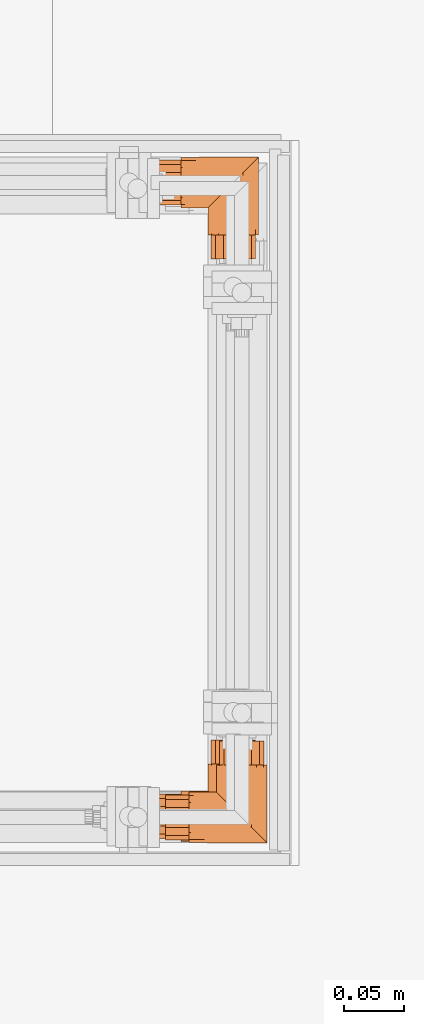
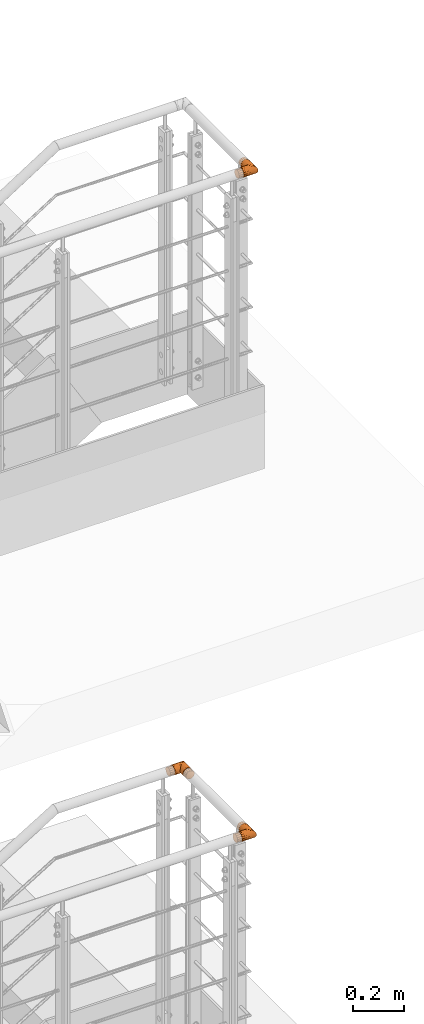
# One storey, part 96 of 98: 3 proxies.
"""IFC2X3 building model written with IfcOpenShell, lengths in millimetres."""

from ifc_helpers import new_model, entity, si_unit, converted_unit, origin_with_axes, place, context, project, spatial, faceted_brep, material, element, save


model = new_model("IFC2X3")

# Units and contexts
model_context = context("Model", 3, precision=1e-09, world=origin_with_axes())
ifc_project = project(units=[si_unit("LENGTHUNIT", "METRE", prefix="MILLI"), si_unit("AREAUNIT", "SQUARE_METRE"), si_unit("VOLUMEUNIT", "CUBIC_METRE"), converted_unit("PLANEANGLEUNIT", "DEGREE", entity("IfcPlaneAngleMeasure", 0.01745329), si_unit("PLANEANGLEUNIT", "RADIAN"), dimensions=[0, 0, 0, 0, 0, 0, 0])], contexts=[model_context])

# Site, building, storey
site_placement = place(None, origin_with_axes())
site = spatial("IfcSite", under=ifc_project, at=site_placement, Name="Maybachstra?e 2, 71563 Affalterbach", CompositionType="ELEMENT")
building_placement = place(site_placement, origin_with_axes())
building = spatial("IfcBuilding", under=site, at=building_placement, Name="Struktur 1", CompositionType="ELEMENT")
storey_placement = place(building_placement, origin_with_axes())
storey = spatial("IfcBuildingStorey", under=building, at=storey_placement, Name="Default Storey", CompositionType="ELEMENT", Elevation=0.0)

# Proxies
ifc_material = material(Name="1.4301")
proxy_1_placement = place(None, origin_with_axes())
element("IfcBuildingElementProxy", 1, at=proxy_1_placement, inside=storey, material=ifc_material, ObjectType="-", context=model_context, shape_type="Brep", body=[
    faceted_brep([(12180.232157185, -58.669869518, 3973.061275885), (12160.232157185, -58.669869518, 3973.061275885), (12160.232157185, -58.669869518, 3964.538724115), (12180.232157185, -58.669869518, 3964.538724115), (12160.232157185, -25.027927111, 3956.860170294), (12160.232157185, -31.691126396, 3951.54644618), (12160.232157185, -40.0, 3949.65), (12160.232157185, -48.308873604, 3951.54644618), (12160.232157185, -54.972072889, 3956.860170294), (12160.232157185, -54.972072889, 3980.739829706), (12160.232157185, -48.308873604, 3986.05355382), (12160.232157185, -40.0, 3987.95), (12160.232157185, -31.691126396, 3986.05355382), (12160.232157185, -25.027927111, 3980.739829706), (12160.232157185, -21.330130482, 3973.061275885), (12160.232157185, -21.330130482, 3964.538724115), (12180.232157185, -54.972072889, 3980.739829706), (12180.232157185, -25.027927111, 3980.739829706), (12180.232157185, -31.691126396, 3986.05355382), (12180.232157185, -40.0, 3987.95), (12180.232157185, -48.308873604, 3986.05355382), (12180.232157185, -54.972072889, 3956.860170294), (12180.232157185, -48.308873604, 3951.54644618), (12180.232157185, -40.0, 3949.65), (12180.232157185, -31.691126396, 3951.54644618), (12180.232157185, -25.027927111, 3956.860170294), (12180.232157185, -21.330130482, 3964.538724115), (12180.232157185, -21.330130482, 3973.061275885)], [[[0, 1, 2, 3]], [[4, 5, 6, 7, 8, 2, 1, 9, 10, 11, 12, 13, 14, 15]], [[1, 0, 16, 9]], [[17, 18, 19, 20, 16, 0, 3, 21, 22, 23, 24, 25, 26, 27]], [[3, 2, 8, 21]], [[9, 16, 20, 10]], [[21, 8, 7, 22]], [[10, 20, 19, 11]], [[22, 7, 6, 23]], [[11, 19, 18, 12]], [[23, 6, 5, 24]], [[17, 13, 12, 18]], [[13, 17, 27, 14]], [[24, 5, 4, 25]], [[14, 27, 26, 15]], [[25, 4, 15, 26]]]),
    faceted_brep([(12244.824805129, -19.207352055, 3972.935914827), (12243.618403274, -20.413753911, 3976.912888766), (12241.659312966, -22.372844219, 3980.57808894), (12239.022820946, -25.009336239, 3983.790663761), (12232.145045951, -31.887111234, 3988.386246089), (12224.032157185, -40.0, 3990.0), (12215.919268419, -48.112888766, 3988.386246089), (12209.041493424, -54.990663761, 3983.790663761), (12206.405001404, -57.627155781, 3980.57808894), (12204.445911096, -59.586246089, 3976.912888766), (12203.23950924, -60.792647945, 3972.935914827), (12202.832157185, -61.2, 3968.8), (12203.23950924, -60.792647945, 3964.664085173), (12204.445911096, -59.586246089, 3960.687111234), (12206.405001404, -57.627155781, 3957.02191106), (12209.041493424, -54.990663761, 3953.809336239), (12215.919268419, -48.112888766, 3949.213753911), (12224.032157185, -40.0, 3947.6), (12232.145045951, -31.887111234, 3949.213753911), (12239.022820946, -25.009336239, 3953.809336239), (12241.659312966, -22.372844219, 3957.02191106), (12243.618403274, -20.413753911, 3960.687111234), (12244.824805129, -19.207352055, 3964.664085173), (12245.232157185, -18.8, 3968.8), (12180.232157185, -44.407727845, 3989.536729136), (12180.232157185, -40.0, 3947.6), (12180.232157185, -52.461047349, 3985.951160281), (12180.232157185, -35.592272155, 3989.536729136), (12180.232157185, -48.622816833, 3949.432836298), (12180.232157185, -55.7546703, 3954.614431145), (12180.232157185, -60.162398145, 3962.248839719), (12180.232157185, -61.083864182, 3971.016003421), (12180.232157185, -58.35973856, 3979.4), (12180.232157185, -27.538952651, 3985.951160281), (12180.232157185, -21.64026144, 3979.4), (12180.232157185, -18.916135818, 3971.016003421), (12180.232157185, -19.837601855, 3962.248839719), (12180.232157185, -24.2453297, 3954.614431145), (12180.232157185, -31.377183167, 3949.432836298)], [[[0, 1, 2, 3, 4, 5, 6, 7, 8, 9, 10, 11, 12, 13, 14, 15, 16, 17, 18, 19, 20, 21, 22, 23]], [[6, 5, 24]], [[17, 16, 25]], [[26, 6, 24]], [[24, 5, 27]], [[18, 17, 25]], [[25, 16, 28]], [[7, 6, 26]], [[28, 29, 30, 31, 32, 26, 24, 27, 33, 34, 35, 36, 37, 38, 25]], [[5, 4, 27]], [[38, 18, 25]], [[16, 15, 28]], [[8, 7, 32]], [[32, 7, 26]], [[27, 4, 33]], [[19, 18, 38]], [[11, 10, 31]], [[28, 15, 29]], [[9, 8, 32]], [[10, 9, 31]], [[4, 3, 33]], [[37, 19, 38]], [[31, 12, 11]], [[13, 12, 30]], [[14, 13, 30]], [[15, 14, 29]], [[31, 9, 32]], [[33, 3, 34]], [[20, 19, 37]], [[30, 12, 31]], [[29, 14, 30]], [[3, 2, 34]], [[36, 20, 37]], [[2, 1, 34]], [[21, 20, 36]], [[34, 1, 35]], [[22, 21, 36]], [[35, 22, 36]], [[1, 0, 35]], [[0, 23, 35]], [[35, 23, 22]]]),
    faceted_brep([(12242.702026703, -103.8, 3964.538724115), (12242.702026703, -83.8, 3964.538724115), (12242.702026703, -83.8, 3973.061275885), (12242.702026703, -103.8, 3973.061275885), (12239.004230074, -83.8, 3980.739829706), (12239.004230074, -103.8, 3980.739829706), (12209.060084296, -83.8, 3980.739829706), (12215.723283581, -83.8, 3986.05355382), (12224.032157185, -83.8, 3987.95), (12232.341030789, -83.8, 3986.05355382), (12239.004230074, -83.8, 3956.860170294), (12232.341030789, -83.8, 3951.54644618), (12224.032157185, -83.8, 3949.65), (12215.723283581, -83.8, 3951.54644618), (12209.060084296, -83.8, 3956.860170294), (12205.362287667, -83.8, 3964.538724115), (12205.362287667, -83.8, 3973.061275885), (12239.004230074, -103.8, 3956.860170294), (12209.060084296, -103.8, 3956.860170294), (12215.723283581, -103.8, 3951.54644618), (12224.032157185, -103.8, 3949.65), (12232.341030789, -103.8, 3951.54644618), (12232.341030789, -103.8, 3986.05355382), (12224.032157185, -103.8, 3987.95), (12215.723283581, -103.8, 3986.05355382), (12209.060084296, -103.8, 3980.739829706), (12205.362287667, -103.8, 3973.061275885), (12205.362287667, -103.8, 3964.538724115)], [[[0, 1, 2, 3]], [[3, 2, 4, 5]], [[6, 7, 8, 9, 4, 2, 1, 10, 11, 12, 13, 14, 15, 16]], [[1, 0, 17, 10]], [[18, 19, 20, 21, 17, 0, 3, 5, 22, 23, 24, 25, 26, 27]], [[5, 4, 9, 22]], [[10, 17, 21, 11]], [[20, 12, 11, 21]], [[22, 9, 8, 23]], [[12, 20, 19, 13]], [[13, 19, 18, 14]], [[23, 8, 7, 24]], [[6, 25, 24, 7]], [[16, 26, 25, 6]], [[15, 27, 26, 16]], [[14, 18, 27, 15]]]),
    faceted_brep([(12224.032157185, -83.8, 3947.6), (12224.032157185, -40.0, 3947.6), (12232.654974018, -83.8, 3949.432836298), (12239.022820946, -25.009336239, 3953.809336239), (12239.786827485, -83.8, 3954.614431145), (12211.571109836, -83.8, 3985.951160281), (12205.672418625, -83.8, 3979.4), (12202.948293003, -83.8, 3971.016003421), (12203.869759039, -83.8, 3962.248839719), (12208.277486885, -83.8, 3954.614431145), (12215.409340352, -83.8, 3949.432836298), (12244.19455533, -83.8, 3962.248839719), (12245.116021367, -83.8, 3971.016003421), (12242.391895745, -83.8, 3979.4), (12236.493204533, -83.8, 3985.951160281), (12228.43988503, -83.8, 3989.536729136), (12219.62442934, -83.8, 3989.536729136), (12215.919268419, -48.112888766, 3949.213753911), (12203.23950924, -60.792647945, 3972.935914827), (12204.445911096, -59.586246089, 3976.912888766), (12206.405001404, -57.627155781, 3980.57808894), (12209.041493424, -54.990663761, 3983.790663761), (12215.919268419, -48.112888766, 3988.386246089), (12224.032157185, -40.0, 3990.0), (12232.145045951, -31.887111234, 3988.386246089), (12239.022820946, -25.009336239, 3983.790663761), (12241.659312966, -22.372844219, 3980.57808894), (12243.618403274, -20.413753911, 3976.912888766), (12244.824805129, -19.207352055, 3972.935914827), (12245.232157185, -18.8, 3968.8), (12244.824805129, -19.207352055, 3964.664085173), (12243.618403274, -20.413753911, 3960.687111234), (12241.659312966, -22.372844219, 3957.02191106), (12232.145045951, -31.887111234, 3949.213753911), (12209.041493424, -54.990663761, 3953.809336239), (12206.405001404, -57.627155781, 3957.02191106), (12204.445911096, -59.586246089, 3960.687111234), (12203.23950924, -60.792647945, 3964.664085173), (12202.832157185, -61.2, 3968.8)], [[[0, 1, 2]], [[2, 3, 4]], [[5, 6, 7, 8, 9, 10, 0, 2, 4, 11, 12, 13, 14, 15, 16]], [[17, 1, 0]], [[18, 19, 20, 21, 22, 23, 24, 25, 26, 27, 28, 29, 30, 31, 32, 3, 33, 1, 17, 34, 35, 36, 37, 38]], [[1, 33, 2]], [[33, 3, 2]], [[32, 31, 11]], [[3, 32, 4]], [[10, 17, 0]], [[24, 23, 15]], [[15, 23, 16]], [[23, 22, 16]], [[30, 29, 12]], [[31, 30, 11]], [[4, 32, 11]], [[34, 17, 10]], [[14, 24, 15]], [[12, 29, 28]], [[16, 22, 5]], [[11, 30, 12]], [[9, 34, 10]], [[25, 24, 14]], [[26, 25, 13]], [[27, 26, 13]], [[28, 27, 12]], [[22, 21, 5]], [[35, 34, 9]], [[13, 25, 14]], [[12, 27, 13]], [[5, 21, 6]], [[8, 35, 9]], [[21, 20, 6]], [[7, 37, 8]], [[36, 35, 8]], [[20, 19, 6]], [[38, 37, 7]], [[37, 36, 8]], [[18, 38, 7]], [[6, 19, 7]], [[7, 19, 18]]]),
])
proxy_2_placement = place(None, origin_with_axes())
element("IfcBuildingElementProxy", 2, at=proxy_2_placement, inside=storey, material=ifc_material, ObjectType="-", context=model_context, shape_type="Brep", body=[
    faceted_brep([(12167.232157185, -551.330130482, 7165.561275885), (12187.232157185, -551.330130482, 7165.561275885), (12187.232157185, -551.330130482, 7157.038724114), (12167.232157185, -551.330130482, 7157.038724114), (12167.232157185, -578.308873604, 7144.046446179), (12167.232157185, -584.972072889, 7149.360170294), (12167.232157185, -588.669869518, 7157.038724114), (12167.232157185, -588.669869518, 7165.561275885), (12167.232157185, -584.972072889, 7173.239829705), (12167.232157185, -578.308873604, 7178.55355382), (12167.232157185, -570.0, 7180.45), (12167.232157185, -561.691126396, 7178.55355382), (12167.232157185, -555.027927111, 7173.239829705), (12167.232157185, -555.027927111, 7149.360170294), (12167.232157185, -561.691126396, 7144.046446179), (12167.232157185, -570.0, 7142.15), (12187.232157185, -555.027927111, 7173.239829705), (12187.232157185, -578.308873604, 7178.55355382), (12187.232157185, -584.972072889, 7173.239829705), (12187.232157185, -588.669869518, 7165.561275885), (12187.232157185, -588.669869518, 7157.038724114), (12187.232157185, -584.972072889, 7149.360170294), (12187.232157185, -578.308873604, 7144.046446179), (12187.232157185, -570.0, 7142.15), (12187.232157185, -561.691126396, 7144.046446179), (12187.232157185, -555.027927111, 7149.360170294), (12187.232157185, -561.691126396, 7178.55355382), (12187.232157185, -570.0, 7180.45)], [[[0, 1, 2, 3]], [[4, 5, 6, 7, 8, 9, 10, 11, 12, 0, 3, 13, 14, 15]], [[1, 0, 12, 16]], [[17, 18, 19, 20, 21, 22, 23, 24, 25, 2, 1, 16, 26, 27]], [[3, 2, 25, 13]], [[16, 12, 11, 26]], [[13, 25, 24, 14]], [[26, 11, 10, 27]], [[14, 24, 23, 15]], [[27, 10, 9, 17]], [[15, 23, 22, 4]], [[8, 18, 17, 9]], [[18, 8, 7, 19]], [[4, 22, 21, 5]], [[19, 7, 6, 20]], [[5, 21, 20, 6]]]),
    faceted_brep([(12250.618403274, -589.586246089, 7169.412888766), (12251.824805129, -590.792647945, 7165.435914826), (12252.232157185, -591.2, 7161.3), (12251.824805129, -590.792647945, 7157.164085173), (12250.618403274, -589.586246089, 7153.187111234), (12248.659312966, -587.627155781, 7149.52191106), (12246.022820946, -584.990663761, 7146.309336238), (12239.145045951, -578.112888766, 7141.71375391), (12231.032157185, -570.0, 7140.1), (12222.919268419, -561.887111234, 7141.71375391), (12216.041493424, -555.009336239, 7146.309336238), (12213.405001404, -552.372844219, 7149.52191106), (12211.445911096, -550.413753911, 7153.187111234), (12210.23950924, -549.207352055, 7157.164085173), (12209.832157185, -548.8, 7161.3), (12210.23950924, -549.207352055, 7165.435914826), (12211.445911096, -550.413753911, 7169.412888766), (12213.405001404, -552.372844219, 7173.07808894), (12216.041493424, -555.009336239, 7176.290663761), (12222.919268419, -561.887111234, 7180.886246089), (12231.032157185, -570.0, 7182.5), (12239.145045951, -578.112888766, 7180.886246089), (12246.022820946, -584.990663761, 7176.290663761), (12248.659312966, -587.627155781, 7173.07808894), (12187.232157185, -565.592272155, 7182.036729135), (12187.232157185, -570.0, 7140.1), (12187.232157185, -557.538952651, 7178.45116028), (12187.232157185, -574.407727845, 7182.036729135), (12187.232157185, -561.377183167, 7141.932836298), (12187.232157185, -554.2453297, 7147.114431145), (12187.232157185, -578.622816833, 7141.932836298), (12187.232157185, -585.7546703, 7147.114431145), (12187.232157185, -590.162398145, 7154.748839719), (12187.232157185, -591.083864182, 7163.516003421), (12187.232157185, -588.35973856, 7171.9), (12187.232157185, -582.461047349, 7178.45116028), (12187.232157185, -551.64026144, 7171.9), (12187.232157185, -548.916135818, 7163.516003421), (12187.232157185, -549.837601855, 7154.748839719)], [[[0, 1, 2, 3, 4, 5, 6, 7, 8, 9, 10, 11, 12, 13, 14, 15, 16, 17, 18, 19, 20, 21, 22, 23]], [[20, 19, 24]], [[9, 8, 25]], [[19, 26, 24]], [[20, 24, 27]], [[8, 7, 25]], [[9, 25, 28]], [[19, 18, 26]], [[29, 28, 25, 30, 31, 32, 33, 34, 35, 27, 24, 26, 36, 37, 38]], [[21, 20, 27]], [[7, 30, 25]], [[10, 9, 28]], [[18, 17, 36]], [[18, 36, 26]], [[21, 27, 35]], [[7, 6, 30]], [[15, 14, 37]], [[10, 28, 29]], [[17, 16, 36]], [[16, 15, 37]], [[22, 21, 35]], [[6, 31, 30]], [[13, 37, 14]], [[13, 12, 38]], [[12, 11, 38]], [[11, 10, 29]], [[16, 37, 36]], [[22, 35, 34]], [[6, 5, 31]], [[13, 38, 37]], [[11, 29, 38]], [[23, 22, 34]], [[5, 32, 31]], [[0, 23, 34]], [[5, 4, 32]], [[0, 34, 33]], [[4, 3, 32]], [[3, 33, 32]], [[1, 0, 33]], [[2, 1, 33]], [[2, 33, 3]]]),
    faceted_brep([(12249.702026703, -526.2, 7157.038724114), (12249.702026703, -506.2, 7157.038724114), (12249.702026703, -506.2, 7165.561275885), (12249.702026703, -526.2, 7165.561275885), (12246.004230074, -506.2, 7173.239829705), (12246.004230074, -526.2, 7173.239829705), (12222.723283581, -526.2, 7178.55355382), (12216.060084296, -526.2, 7173.239829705), (12212.362287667, -526.2, 7165.561275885), (12212.362287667, -526.2, 7157.038724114), (12216.060084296, -526.2, 7149.360170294), (12222.723283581, -526.2, 7144.046446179), (12231.032157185, -526.2, 7142.15), (12239.341030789, -526.2, 7144.046446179), (12246.004230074, -526.2, 7149.360170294), (12239.341030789, -526.2, 7178.55355382), (12231.032157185, -526.2, 7180.45), (12246.004230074, -506.2, 7149.360170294), (12222.723283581, -506.2, 7144.046446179), (12216.060084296, -506.2, 7149.360170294), (12212.362287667, -506.2, 7157.038724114), (12212.362287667, -506.2, 7165.561275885), (12216.060084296, -506.2, 7173.239829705), (12222.723283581, -506.2, 7178.55355382), (12231.032157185, -506.2, 7180.45), (12239.341030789, -506.2, 7178.55355382), (12239.341030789, -506.2, 7144.046446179), (12231.032157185, -506.2, 7142.15)], [[[0, 1, 2, 3]], [[3, 2, 4, 5]], [[6, 7, 8, 9, 10, 11, 12, 13, 14, 0, 3, 5, 15, 16]], [[1, 0, 14, 17]], [[18, 19, 20, 21, 22, 23, 24, 25, 4, 2, 1, 17, 26, 27]], [[5, 4, 25, 15]], [[17, 14, 13, 26]], [[12, 27, 26, 13]], [[15, 25, 24, 16]], [[27, 12, 11, 18]], [[18, 11, 10, 19]], [[16, 24, 23, 6]], [[22, 7, 6, 23]], [[21, 8, 7, 22]], [[20, 9, 8, 21]], [[19, 10, 9, 20]]]),
    faceted_brep([(12231.032157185, -570.0, 7140.1), (12231.032157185, -526.2, 7140.1), (12239.654974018, -526.2, 7141.932836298), (12246.022820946, -584.990663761, 7146.309336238), (12246.786827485, -526.2, 7147.114431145), (12212.672418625, -526.2, 7171.9), (12218.571109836, -526.2, 7178.45116028), (12226.62442934, -526.2, 7182.036729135), (12235.43988503, -526.2, 7182.036729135), (12243.493204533, -526.2, 7178.45116028), (12249.391895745, -526.2, 7171.9), (12252.116021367, -526.2, 7163.516003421), (12251.19455533, -526.2, 7154.748839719), (12222.409340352, -526.2, 7141.932836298), (12215.277486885, -526.2, 7147.114431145), (12210.869759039, -526.2, 7154.748839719), (12209.948293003, -526.2, 7163.516003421), (12222.919268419, -561.887111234, 7141.71375391), (12211.445911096, -550.413753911, 7169.412888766), (12210.23950924, -549.207352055, 7165.435914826), (12209.832157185, -548.8, 7161.3), (12210.23950924, -549.207352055, 7157.164085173), (12211.445911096, -550.413753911, 7153.187111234), (12213.405001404, -552.372844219, 7149.52191106), (12216.041493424, -555.009336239, 7146.309336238), (12239.145045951, -578.112888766, 7141.71375391), (12248.659312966, -587.627155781, 7149.52191106), (12250.618403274, -589.586246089, 7153.187111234), (12251.824805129, -590.792647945, 7157.164085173), (12252.232157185, -591.2, 7161.3), (12251.824805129, -590.792647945, 7165.435914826), (12250.618403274, -589.586246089, 7169.412888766), (12248.659312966, -587.627155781, 7173.07808894), (12246.022820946, -584.990663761, 7176.290663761), (12239.145045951, -578.112888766, 7180.886246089), (12231.032157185, -570.0, 7182.5), (12222.919268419, -561.887111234, 7180.886246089), (12216.041493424, -555.009336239, 7176.290663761), (12213.405001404, -552.372844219, 7173.07808894)], [[[0, 1, 2]], [[3, 2, 4]], [[5, 6, 7, 8, 9, 10, 11, 12, 4, 2, 1, 13, 14, 15, 16]], [[0, 17, 1]], [[18, 19, 20, 21, 22, 23, 24, 17, 0, 25, 3, 26, 27, 28, 29, 30, 31, 32, 33, 34, 35, 36, 37, 38]], [[25, 0, 2]], [[3, 25, 2]], [[27, 26, 12]], [[26, 3, 4]], [[17, 13, 1]], [[35, 34, 8]], [[35, 8, 7]], [[36, 35, 7]], [[29, 28, 11]], [[28, 27, 12]], [[26, 4, 12]], [[17, 24, 13]], [[34, 9, 8]], [[29, 11, 30]], [[36, 7, 6]], [[28, 12, 11]], [[24, 14, 13]], [[34, 33, 9]], [[33, 32, 10]], [[32, 31, 10]], [[31, 30, 11]], [[37, 36, 6]], [[24, 23, 14]], [[33, 10, 9]], [[31, 11, 10]], [[37, 6, 5]], [[23, 15, 14]], [[38, 37, 5]], [[21, 16, 15]], [[23, 22, 15]], [[18, 38, 5]], [[21, 20, 16]], [[22, 21, 15]], [[20, 19, 16]], [[18, 5, 16]], [[18, 16, 19]]]),
])
proxy_3_placement = place(None, origin_with_axes())
element("IfcBuildingElementProxy", 3, at=proxy_3_placement, inside=storey, material=ifc_material, ObjectType="-", context=model_context, shape_type="Brep", body=[
    faceted_brep([(12160.232157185, -550.330130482, 3973.061275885), (12180.232157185, -550.330130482, 3973.061275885), (12180.232157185, -550.330130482, 3964.538724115), (12160.232157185, -550.330130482, 3964.538724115), (12160.232157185, -577.308873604, 3951.54644618), (12160.232157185, -583.972072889, 3956.860170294), (12160.232157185, -587.669869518, 3964.538724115), (12160.232157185, -587.669869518, 3973.061275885), (12160.232157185, -583.972072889, 3980.739829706), (12160.232157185, -577.308873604, 3986.05355382), (12160.232157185, -569.0, 3987.95), (12160.232157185, -560.691126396, 3986.05355382), (12160.232157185, -554.027927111, 3980.739829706), (12160.232157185, -554.027927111, 3956.860170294), (12160.232157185, -560.691126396, 3951.54644618), (12160.232157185, -569.0, 3949.65), (12180.232157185, -554.027927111, 3980.739829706), (12180.232157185, -577.308873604, 3986.05355382), (12180.232157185, -583.972072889, 3980.739829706), (12180.232157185, -587.669869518, 3973.061275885), (12180.232157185, -587.669869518, 3964.538724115), (12180.232157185, -583.972072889, 3956.860170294), (12180.232157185, -577.308873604, 3951.54644618), (12180.232157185, -569.0, 3949.65), (12180.232157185, -560.691126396, 3951.54644618), (12180.232157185, -554.027927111, 3956.860170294), (12180.232157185, -560.691126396, 3986.05355382), (12180.232157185, -569.0, 3987.95)], [[[0, 1, 2, 3]], [[4, 5, 6, 7, 8, 9, 10, 11, 12, 0, 3, 13, 14, 15]], [[1, 0, 12, 16]], [[17, 18, 19, 20, 21, 22, 23, 24, 25, 2, 1, 16, 26, 27]], [[3, 2, 25, 13]], [[16, 12, 11, 26]], [[13, 25, 24, 14]], [[26, 11, 10, 27]], [[14, 24, 23, 15]], [[27, 10, 9, 17]], [[15, 23, 22, 4]], [[8, 18, 17, 9]], [[18, 8, 7, 19]], [[4, 22, 21, 5]], [[19, 7, 6, 20]], [[5, 21, 20, 6]]]),
    faceted_brep([(12243.618403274, -588.586246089, 3976.912888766), (12244.824805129, -589.792647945, 3972.935914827), (12245.232157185, -590.2, 3968.8), (12244.824805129, -589.792647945, 3964.664085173), (12243.618403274, -588.586246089, 3960.687111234), (12241.659312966, -586.627155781, 3957.02191106), (12239.022820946, -583.990663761, 3953.809336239), (12232.145045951, -577.112888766, 3949.213753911), (12224.032157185, -569.0, 3947.6), (12215.919268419, -560.887111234, 3949.213753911), (12209.041493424, -554.009336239, 3953.809336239), (12206.405001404, -551.372844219, 3957.02191106), (12204.445911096, -549.413753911, 3960.687111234), (12203.23950924, -548.207352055, 3964.664085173), (12202.832157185, -547.8, 3968.8), (12203.23950924, -548.207352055, 3972.935914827), (12204.445911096, -549.413753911, 3976.912888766), (12206.405001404, -551.372844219, 3980.57808894), (12209.041493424, -554.009336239, 3983.790663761), (12215.919268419, -560.887111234, 3988.386246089), (12224.032157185, -569.0, 3990.0), (12232.145045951, -577.112888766, 3988.386246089), (12239.022820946, -583.990663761, 3983.790663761), (12241.659312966, -586.627155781, 3980.57808894), (12180.232157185, -564.592272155, 3989.536729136), (12180.232157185, -569.0, 3947.6), (12180.232157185, -556.538952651, 3985.951160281), (12180.232157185, -573.407727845, 3989.536729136), (12180.232157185, -560.377183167, 3949.432836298), (12180.232157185, -553.2453297, 3954.614431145), (12180.232157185, -577.622816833, 3949.432836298), (12180.232157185, -584.7546703, 3954.614431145), (12180.232157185, -589.162398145, 3962.248839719), (12180.232157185, -590.083864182, 3971.016003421), (12180.232157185, -587.35973856, 3979.4), (12180.232157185, -581.461047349, 3985.951160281), (12180.232157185, -550.64026144, 3979.4), (12180.232157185, -547.916135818, 3971.016003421), (12180.232157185, -548.837601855, 3962.248839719)], [[[0, 1, 2, 3, 4, 5, 6, 7, 8, 9, 10, 11, 12, 13, 14, 15, 16, 17, 18, 19, 20, 21, 22, 23]], [[20, 19, 24]], [[9, 8, 25]], [[19, 26, 24]], [[20, 24, 27]], [[8, 7, 25]], [[9, 25, 28]], [[19, 18, 26]], [[29, 28, 25, 30, 31, 32, 33, 34, 35, 27, 24, 26, 36, 37, 38]], [[21, 20, 27]], [[7, 30, 25]], [[10, 9, 28]], [[18, 17, 36]], [[18, 36, 26]], [[21, 27, 35]], [[7, 6, 30]], [[15, 14, 37]], [[10, 28, 29]], [[17, 16, 36]], [[16, 15, 37]], [[22, 21, 35]], [[6, 31, 30]], [[13, 37, 14]], [[13, 12, 38]], [[12, 11, 38]], [[11, 10, 29]], [[16, 37, 36]], [[22, 35, 34]], [[6, 5, 31]], [[13, 38, 37]], [[11, 29, 38]], [[23, 22, 34]], [[5, 32, 31]], [[0, 23, 34]], [[5, 4, 32]], [[0, 34, 33]], [[4, 3, 32]], [[3, 33, 32]], [[1, 0, 33]], [[2, 1, 33]], [[2, 33, 3]]]),
    faceted_brep([(12242.702026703, -525.2, 3964.538724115), (12242.702026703, -505.2, 3964.538724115), (12242.702026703, -505.2, 3973.061275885), (12242.702026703, -525.2, 3973.061275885), (12239.004230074, -505.2, 3980.739829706), (12239.004230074, -525.2, 3980.739829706), (12215.723283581, -525.2, 3986.05355382), (12209.060084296, -525.2, 3980.739829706), (12205.362287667, -525.2, 3973.061275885), (12205.362287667, -525.2, 3964.538724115), (12209.060084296, -525.2, 3956.860170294), (12215.723283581, -525.2, 3951.54644618), (12224.032157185, -525.2, 3949.65), (12232.341030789, -525.2, 3951.54644618), (12239.004230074, -525.2, 3956.860170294), (12232.341030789, -525.2, 3986.05355382), (12224.032157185, -525.2, 3987.95), (12239.004230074, -505.2, 3956.860170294), (12215.723283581, -505.2, 3951.54644618), (12209.060084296, -505.2, 3956.860170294), (12205.362287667, -505.2, 3964.538724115), (12205.362287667, -505.2, 3973.061275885), (12209.060084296, -505.2, 3980.739829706), (12215.723283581, -505.2, 3986.05355382), (12224.032157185, -505.2, 3987.95), (12232.341030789, -505.2, 3986.05355382), (12232.341030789, -505.2, 3951.54644618), (12224.032157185, -505.2, 3949.65)], [[[0, 1, 2, 3]], [[3, 2, 4, 5]], [[6, 7, 8, 9, 10, 11, 12, 13, 14, 0, 3, 5, 15, 16]], [[1, 0, 14, 17]], [[18, 19, 20, 21, 22, 23, 24, 25, 4, 2, 1, 17, 26, 27]], [[5, 4, 25, 15]], [[17, 14, 13, 26]], [[12, 27, 26, 13]], [[15, 25, 24, 16]], [[27, 12, 11, 18]], [[18, 11, 10, 19]], [[16, 24, 23, 6]], [[22, 7, 6, 23]], [[21, 8, 7, 22]], [[20, 9, 8, 21]], [[19, 10, 9, 20]]]),
    faceted_brep([(12224.032157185, -569.0, 3947.6), (12224.032157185, -525.2, 3947.6), (12232.654974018, -525.2, 3949.432836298), (12239.022820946, -583.990663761, 3953.809336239), (12239.786827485, -525.2, 3954.614431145), (12205.672418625, -525.2, 3979.4), (12211.571109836, -525.2, 3985.951160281), (12219.62442934, -525.2, 3989.536729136), (12228.43988503, -525.2, 3989.536729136), (12236.493204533, -525.2, 3985.951160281), (12242.391895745, -525.2, 3979.4), (12245.116021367, -525.2, 3971.016003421), (12244.19455533, -525.2, 3962.248839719), (12215.409340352, -525.2, 3949.432836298), (12208.277486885, -525.2, 3954.614431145), (12203.869759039, -525.2, 3962.248839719), (12202.948293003, -525.2, 3971.016003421), (12215.919268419, -560.887111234, 3949.213753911), (12204.445911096, -549.413753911, 3976.912888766), (12203.23950924, -548.207352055, 3972.935914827), (12202.832157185, -547.8, 3968.8), (12203.23950924, -548.207352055, 3964.664085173), (12204.445911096, -549.413753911, 3960.687111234), (12206.405001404, -551.372844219, 3957.02191106), (12209.041493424, -554.009336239, 3953.809336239), (12232.145045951, -577.112888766, 3949.213753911), (12241.659312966, -586.627155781, 3957.02191106), (12243.618403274, -588.586246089, 3960.687111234), (12244.824805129, -589.792647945, 3964.664085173), (12245.232157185, -590.2, 3968.8), (12244.824805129, -589.792647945, 3972.935914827), (12243.618403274, -588.586246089, 3976.912888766), (12241.659312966, -586.627155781, 3980.57808894), (12239.022820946, -583.990663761, 3983.790663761), (12232.145045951, -577.112888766, 3988.386246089), (12224.032157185, -569.0, 3990.0), (12215.919268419, -560.887111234, 3988.386246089), (12209.041493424, -554.009336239, 3983.790663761), (12206.405001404, -551.372844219, 3980.57808894)], [[[0, 1, 2]], [[3, 2, 4]], [[5, 6, 7, 8, 9, 10, 11, 12, 4, 2, 1, 13, 14, 15, 16]], [[0, 17, 1]], [[18, 19, 20, 21, 22, 23, 24, 17, 0, 25, 3, 26, 27, 28, 29, 30, 31, 32, 33, 34, 35, 36, 37, 38]], [[25, 0, 2]], [[3, 25, 2]], [[27, 26, 12]], [[26, 3, 4]], [[17, 13, 1]], [[35, 34, 8]], [[35, 8, 7]], [[36, 35, 7]], [[29, 28, 11]], [[28, 27, 12]], [[26, 4, 12]], [[17, 24, 13]], [[34, 9, 8]], [[29, 11, 30]], [[36, 7, 6]], [[28, 12, 11]], [[24, 14, 13]], [[34, 33, 9]], [[33, 32, 10]], [[32, 31, 10]], [[31, 30, 11]], [[37, 36, 6]], [[24, 23, 14]], [[33, 10, 9]], [[31, 11, 10]], [[37, 6, 5]], [[23, 15, 14]], [[38, 37, 5]], [[21, 16, 15]], [[23, 22, 15]], [[18, 38, 5]], [[21, 20, 16]], [[22, 21, 15]], [[20, 19, 16]], [[18, 5, 16]], [[18, 16, 19]]]),
])

save(model, "model.ifc")
